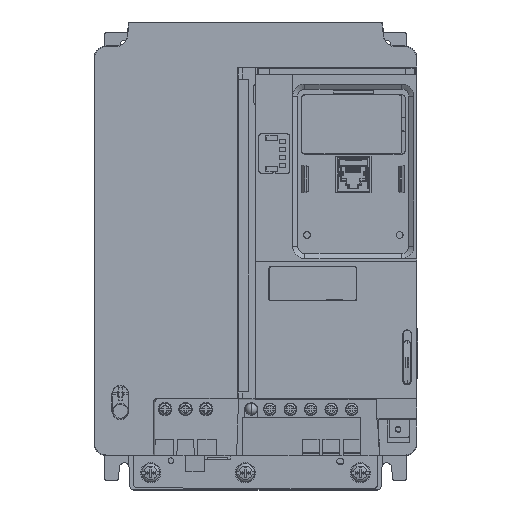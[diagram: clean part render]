
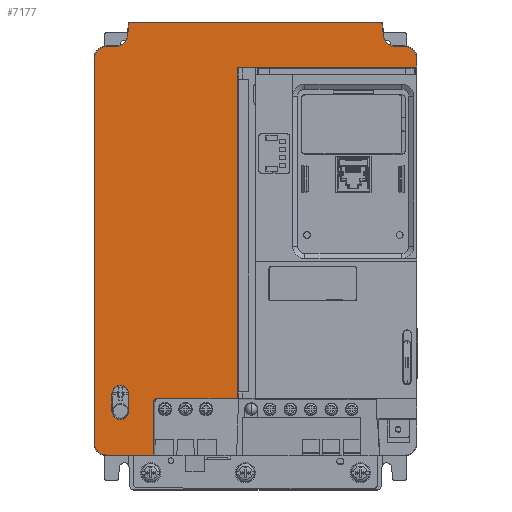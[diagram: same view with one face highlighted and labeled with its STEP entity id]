
A CAD part, top view. The second image highlights one B-rep face of the part: STEP entity #7177.
In plain terms, the highlighted planar face has unit normal (0, 0, 1).
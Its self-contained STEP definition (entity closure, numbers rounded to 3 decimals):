
#797=FACE_BOUND('',#21581,.T.);
#798=FACE_BOUND('',#21582,.T.);
#1641=(
BOUNDED_CURVE()
B_SPLINE_CURVE(3,(#156067,#156068,#156069,#156070),.UNSPECIFIED.,.F.,.F.)
B_SPLINE_CURVE_WITH_KNOTS((4,4),(0.,1.),.UNSPECIFIED.)
CURVE()
GEOMETRIC_REPRESENTATION_ITEM()
RATIONAL_B_SPLINE_CURVE((1.,0.805,0.805,1.))
REPRESENTATION_ITEM('')
);
#7177=ADVANCED_FACE('',(#797,#798),#11649,.T.);
#11649=PLANE('',#103875);
#21581=EDGE_LOOP('',(#42243,#42244,#42245,#42246,#42247,#42248,#42249,#42250,
#42251,#42252,#42253,#42254,#42255,#42256,#42257,#42258,#42259,#42260,#42261,
#42262));
#21582=EDGE_LOOP('',(#42263,#42264,#42265,#42266));
#25703=CIRCLE('',#103802,4.21);
#25706=CIRCLE('',#103809,4.21);
#25714=CIRCLE('',#103826,5.8);
#25719=CIRCLE('',#103835,5.2);
#25724=CIRCLE('',#103844,0.8);
#25728=CIRCLE('',#103850,0.8);
#25732=CIRCLE('',#103858,5.2);
#25737=CIRCLE('',#103867,5.8);
#25740=CIRCLE('',#103872,5.8);
#42243=ORIENTED_EDGE('',*,*,#72818,.T.);
#42244=ORIENTED_EDGE('',*,*,#72819,.F.);
#42245=ORIENTED_EDGE('',*,*,#72820,.F.);
#42246=ORIENTED_EDGE('',*,*,#72758,.T.);
#42247=ORIENTED_EDGE('',*,*,#72762,.F.);
#42248=ORIENTED_EDGE('',*,*,#72770,.F.);
#42249=ORIENTED_EDGE('',*,*,#72773,.F.);
#42250=ORIENTED_EDGE('',*,*,#72780,.F.);
#42251=ORIENTED_EDGE('',*,*,#72783,.F.);
#42252=ORIENTED_EDGE('',*,*,#72786,.T.);
#42253=ORIENTED_EDGE('',*,*,#72789,.F.);
#42254=ORIENTED_EDGE('',*,*,#72796,.F.);
#42255=ORIENTED_EDGE('',*,*,#72798,.F.);
#42256=ORIENTED_EDGE('',*,*,#72800,.F.);
#42257=ORIENTED_EDGE('',*,*,#72808,.F.);
#42258=ORIENTED_EDGE('',*,*,#72809,.T.);
#42259=ORIENTED_EDGE('',*,*,#72814,.F.);
#42260=ORIENTED_EDGE('',*,*,#72817,.T.);
#42261=ORIENTED_EDGE('',*,*,#72821,.T.);
#42262=ORIENTED_EDGE('',*,*,#72751,.T.);
#42263=ORIENTED_EDGE('',*,*,#72728,.F.);
#42264=ORIENTED_EDGE('',*,*,#72747,.F.);
#42265=ORIENTED_EDGE('',*,*,#72739,.F.);
#42266=ORIENTED_EDGE('',*,*,#72732,.F.);
#60834=VERTEX_POINT('',#156014);
#60835=VERTEX_POINT('',#156015);
#60837=VERTEX_POINT('',#156022);
#60840=VERTEX_POINT('',#156038);
#60844=VERTEX_POINT('',#156061);
#60847=VERTEX_POINT('',#156066);
#60854=VERTEX_POINT('',#156085);
#60855=VERTEX_POINT('',#156087);
#60857=VERTEX_POINT('',#156093);
#60862=VERTEX_POINT('',#156109);
#60864=VERTEX_POINT('',#156115);
#60868=VERTEX_POINT('',#156129);
#60870=VERTEX_POINT('',#156135);
#60872=VERTEX_POINT('',#156141);
#60874=VERTEX_POINT('',#156147);
#60877=VERTEX_POINT('',#156160);
#60878=VERTEX_POINT('',#156164);
#60880=VERTEX_POINT('',#156169);
#60884=VERTEX_POINT('',#156184);
#60885=VERTEX_POINT('',#156188);
#60888=VERTEX_POINT('',#156199);
#60890=VERTEX_POINT('',#156208);
#60891=VERTEX_POINT('',#156212);
#60892=VERTEX_POINT('',#156214);
#72728=EDGE_CURVE('',#60834,#60835,#25703,.T.);
#72732=EDGE_CURVE('',#60835,#60837,#84757,.T.);
#72739=EDGE_CURVE('',#60837,#60840,#25706,.T.);
#72747=EDGE_CURVE('',#60840,#60834,#84764,.T.);
#72751=EDGE_CURVE('',#60844,#60847,#1641,.T.);
#72758=EDGE_CURVE('',#60855,#60854,#84770,.T.);
#72762=EDGE_CURVE('',#60857,#60854,#25714,.T.);
#72770=EDGE_CURVE('',#60862,#60857,#84776,.T.);
#72773=EDGE_CURVE('',#60864,#60862,#25719,.T.);
#72780=EDGE_CURVE('',#60868,#60864,#84781,.T.);
#72783=EDGE_CURVE('',#60870,#60868,#25724,.T.);
#72786=EDGE_CURVE('',#60870,#60872,#84783,.T.);
#72789=EDGE_CURVE('',#60874,#60872,#25728,.T.);
#72796=EDGE_CURVE('',#60877,#60874,#84788,.T.);
#72798=EDGE_CURVE('',#60878,#60877,#25732,.T.);
#72800=EDGE_CURVE('',#60880,#60878,#84789,.T.);
#72808=EDGE_CURVE('',#60884,#60880,#25737,.T.);
#72809=EDGE_CURVE('',#60884,#60885,#84794,.T.);
#72814=EDGE_CURVE('',#60888,#60885,#25740,.T.);
#72817=EDGE_CURVE('',#60888,#60890,#84797,.T.);
#72818=EDGE_CURVE('',#60847,#60891,#84798,.T.);
#72819=EDGE_CURVE('',#60892,#60891,#84799,.T.);
#72820=EDGE_CURVE('',#60855,#60892,#84800,.T.);
#72821=EDGE_CURVE('',#60890,#60844,#84801,.T.);
#84757=LINE('',#156021,#95105);
#84764=LINE('',#156058,#95112);
#84770=LINE('',#156086,#95118);
#84776=LINE('',#156110,#95124);
#84781=LINE('',#156130,#95129);
#84783=LINE('',#156142,#95131);
#84788=LINE('',#156161,#95136);
#84789=LINE('',#156170,#95137);
#84794=LINE('',#156187,#95142);
#84797=LINE('',#156209,#95145);
#84798=LINE('',#156211,#95146);
#84799=LINE('',#156213,#95147);
#84800=LINE('',#156215,#95148);
#84801=LINE('',#156216,#95149);
#95105=VECTOR('',#122576,1.);
#95112=VECTOR('',#122605,1.);
#95118=VECTOR('',#122625,1.);
#95124=VECTOR('',#122651,1.);
#95129=VECTOR('',#122674,1.);
#95131=VECTOR('',#122688,1.);
#95136=VECTOR('',#122711,1.);
#95137=VECTOR('',#122722,1.);
#95142=VECTOR('',#122743,1.);
#95145=VECTOR('',#122756,1.);
#95146=VECTOR('',#122759,1.);
#95147=VECTOR('',#122760,1.);
#95148=VECTOR('',#122761,1.);
#95149=VECTOR('',#122762,1.);
#103802=AXIS2_PLACEMENT_3D('',#156013,#122569,#122570);
#103809=AXIS2_PLACEMENT_3D('',#156037,#122590,#122591);
#103826=AXIS2_PLACEMENT_3D('',#156094,#122634,#122635);
#103835=AXIS2_PLACEMENT_3D('',#156116,#122658,#122659);
#103844=AXIS2_PLACEMENT_3D('',#156136,#122681,#122682);
#103850=AXIS2_PLACEMENT_3D('',#156148,#122695,#122696);
#103858=AXIS2_PLACEMENT_3D('',#156165,#122716,#122717);
#103867=AXIS2_PLACEMENT_3D('',#156185,#122739,#122740);
#103872=AXIS2_PLACEMENT_3D('',#156200,#122751,#122752);
#103875=AXIS2_PLACEMENT_3D('',#156217,#122763,#122764);
#122569=DIRECTION('',(0.,0.,1.));
#122570=DIRECTION('',(1.,0.,0.));
#122576=DIRECTION('',(0.,1.,0.));
#122590=DIRECTION('',(0.,0.,1.));
#122591=DIRECTION('',(1.,0.,0.));
#122605=DIRECTION('',(0.,-1.,0.));
#122625=DIRECTION('',(0.,1.,0.));
#122634=DIRECTION('',(0.,0.,-1.));
#122635=DIRECTION('',(0.017,1.,0.));
#122651=DIRECTION('',(1.,-0.017,0.));
#122658=DIRECTION('',(0.,0.,1.));
#122659=DIRECTION('',(-0.996,-0.087,0.));
#122674=DIRECTION('',(0.087,-0.996,0.));
#122681=DIRECTION('',(0.,0.,-1.));
#122682=DIRECTION('',(0.,1.,0.));
#122688=DIRECTION('',(-1.,0.,0.));
#122695=DIRECTION('',(0.,0.,-1.));
#122696=DIRECTION('',(-0.996,0.087,0.));
#122711=DIRECTION('',(0.087,0.996,0.));
#122716=DIRECTION('',(0.,0.,1.));
#122717=DIRECTION('',(0.017,-1.,0.));
#122722=DIRECTION('',(1.,0.017,0.));
#122739=DIRECTION('',(0.,0.,-1.));
#122740=DIRECTION('',(-1.,0.,0.));
#122743=DIRECTION('',(0.,-1.,0.));
#122751=DIRECTION('',(0.,0.,-1.));
#122752=DIRECTION('',(0.,-1.,0.));
#122756=DIRECTION('',(1.,0.,0.));
#122759=DIRECTION('',(1.,0.,0.));
#122760=DIRECTION('',(0.,-1.,0.));
#122761=DIRECTION('',(-1.,0.,0.));
#122762=DIRECTION('',(0.,1.,0.));
#122763=DIRECTION('',(0.,0.,1.));
#122764=DIRECTION('',(-1.,0.,0.));
#156013=CARTESIAN_POINT('',(13.,39.,180.2));
#156014=CARTESIAN_POINT('',(8.79,39.,180.2));
#156015=CARTESIAN_POINT('',(17.21,39.,180.2));
#156021=CARTESIAN_POINT('',(17.21,17.,180.2));
#156022=CARTESIAN_POINT('',(17.21,47.5,180.2));
#156037=CARTESIAN_POINT('',(13.,47.5,180.2));
#156038=CARTESIAN_POINT('',(8.79,47.5,180.2));
#156058=CARTESIAN_POINT('',(8.79,17.,180.2));
#156061=CARTESIAN_POINT('',(29.4,43.418,180.2));
#156066=CARTESIAN_POINT('',(31.401,45.416,180.2));
#156067=CARTESIAN_POINT('',(29.4,43.418,180.2));
#156068=CARTESIAN_POINT('',(29.4,44.589,180.2));
#156069=CARTESIAN_POINT('',(30.229,45.416,180.2));
#156070=CARTESIAN_POINT('',(31.401,45.416,180.2));
#156085=CARTESIAN_POINT('',(159.8,214.104,180.2));
#156086=CARTESIAN_POINT('',(159.8,209.657,180.2));
#156087=CARTESIAN_POINT('',(159.8,209.657,180.2));
#156093=CARTESIAN_POINT('',(154.101,219.903,180.2));
#156094=CARTESIAN_POINT('',(154.,214.104,180.2));
#156109=CARTESIAN_POINT('',(148.523,220.,180.2));
#156110=CARTESIAN_POINT('',(148.523,220.,180.2));
#156115=CARTESIAN_POINT('',(143.434,224.746,180.2));
#156116=CARTESIAN_POINT('',(148.614,225.2,180.2));
#156129=CARTESIAN_POINT('',(142.881,231.07,180.2));
#156130=CARTESIAN_POINT('',(142.881,231.07,180.2));
#156135=CARTESIAN_POINT('',(142.084,231.8,180.2));
#156136=CARTESIAN_POINT('',(142.084,231.,180.2));
#156141=CARTESIAN_POINT('',(17.916,231.8,180.2));
#156142=CARTESIAN_POINT('',(142.084,231.8,180.2));
#156147=CARTESIAN_POINT('',(17.119,231.07,180.2));
#156148=CARTESIAN_POINT('',(17.916,231.,180.2));
#156160=CARTESIAN_POINT('',(16.566,224.746,180.2));
#156161=CARTESIAN_POINT('',(16.566,224.746,180.2));
#156164=CARTESIAN_POINT('',(11.477,220.,180.2));
#156165=CARTESIAN_POINT('',(11.386,225.2,180.2));
#156169=CARTESIAN_POINT('',(5.899,219.903,180.2));
#156170=CARTESIAN_POINT('',(5.899,219.903,180.2));
#156184=CARTESIAN_POINT('',(0.2,214.104,180.2));
#156185=CARTESIAN_POINT('',(6.,214.104,180.2));
#156187=CARTESIAN_POINT('',(0.2,214.104,180.2));
#156188=CARTESIAN_POINT('',(0.2,23.,180.2));
#156199=CARTESIAN_POINT('',(6.,17.2,180.2));
#156200=CARTESIAN_POINT('',(6.,23.,180.2));
#156208=CARTESIAN_POINT('',(29.4,17.2,180.2));
#156209=CARTESIAN_POINT('',(6.,17.2,180.2));
#156211=CARTESIAN_POINT('',(143.445,45.416,180.2));
#156212=CARTESIAN_POINT('',(70.95,45.416,180.2));
#156213=CARTESIAN_POINT('',(70.95,17.,180.2));
#156214=CARTESIAN_POINT('',(70.95,209.657,180.2));
#156215=CARTESIAN_POINT('',(159.8,209.657,180.2));
#156216=CARTESIAN_POINT('',(29.4,45.2,180.2));
#156217=CARTESIAN_POINT('',(80.,17.,180.2));
